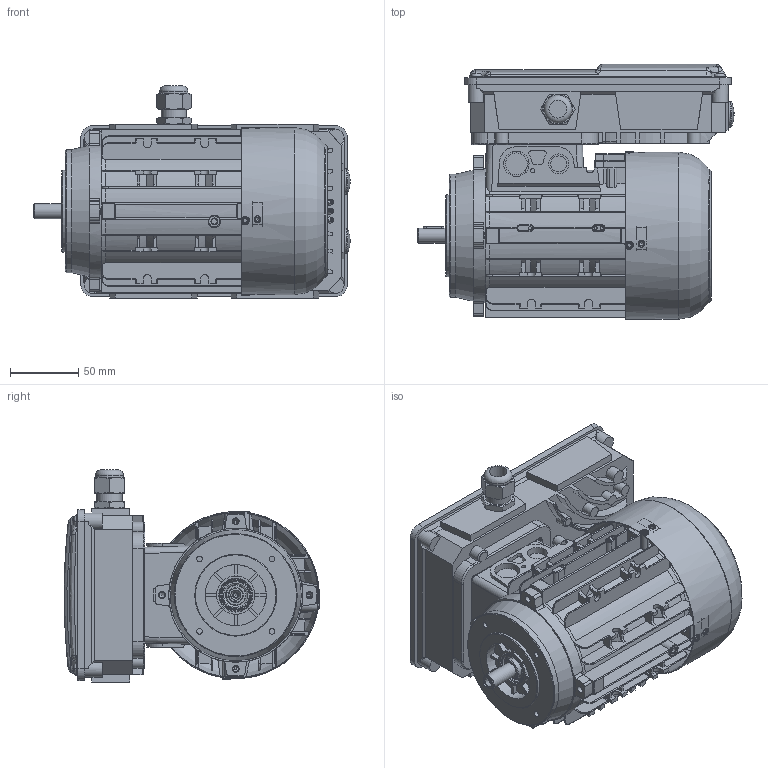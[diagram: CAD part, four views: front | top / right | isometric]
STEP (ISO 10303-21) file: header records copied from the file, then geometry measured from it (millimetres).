
FILE_DESCRIPTION(/* description */ ('Electromotor 4P 230/400 0,18kW 63 v.z.v. NeriDrive Junior versie T'),/* implementation_level */ '2;1');
FILE_NAME(/* name */ 'EM5150630180.stp',/* time_stamp */ '2024-02-07T14:23:02+01:00',/* author */ ('r.biemans'),/* organization */ ('BCK Holland b.v.'),/* preprocessor_version */ 'ST-DEVELOPER v19.2',/* originating_system */ 'Autodesk Inventor 2023',/* authorisation */ '');
FILE_SCHEMA (('AUTOMOTIVE_DESIGN { 1 0 10303 214 3 1 1 }'));
Products named in the file (1): EM5150630180
Bounding box: 231.28 x 187 x 155.2 mm (x, y, z)
Volume: 676584.7 mm3; surface area: 477118.8 mm2
Topology: 1 solids, 17 shells, 3272 faces, 8634 edges, 5477 vertices
Faces by surface type: plane 1451, cylinder 1002, torus 343, cone 225, bspline 205, sphere 46
Full cylindrical faces by diameter (mm): 1.5 x1, 2.225 x6, 3 x13, 3.1 x5, 3.11 x2, 3.3 x6, 4 x1, 4.2 x12, 4.3 x1, 4.5 x4, 5 x16, 5.5 x8, 6 x12, 8 x7, 9 x8, 11 x1, 11.7 x2, 11.835 x2, 13 x5, 14.6 x2, 15 x7, 15.294 x1, 16 x2, 16.5 x1, 17 x1, 17.7 x1, 17.771 x1, 18.5 x4, 18.6 x1, 19 x1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
Entity records: 132028 total; most frequent: CARTESIAN_POINT 51718, ORIENTED_EDGE 17212, DIRECTION 16608, EDGE_CURVE 8606, AXIS2_PLACEMENT_3D 6167, VERTEX_POINT 5477, LINE 4274, VECTOR 4274
